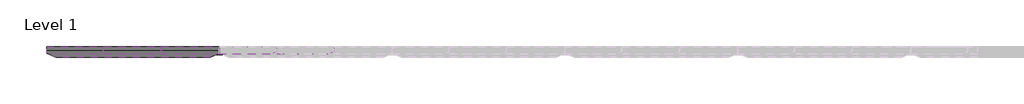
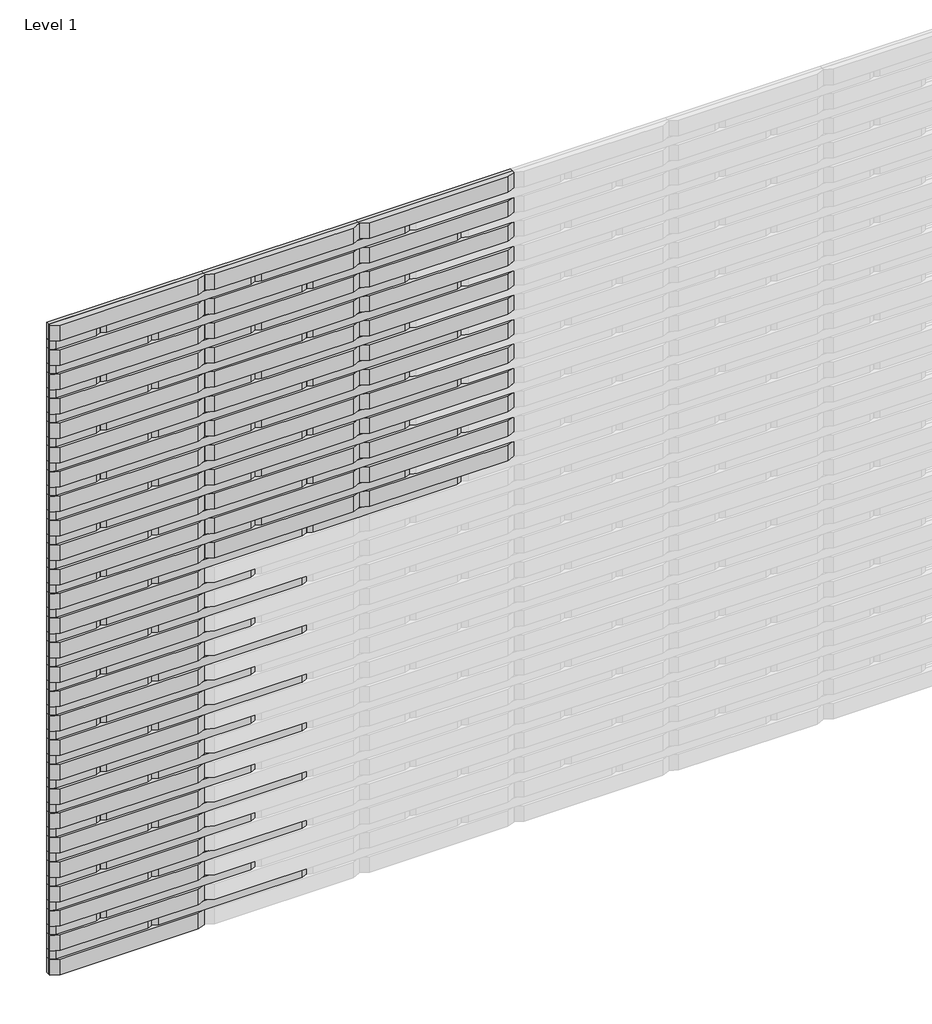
# One storey, part 1 of 3: 115 proxies.
"""IFC4 building model written with IfcOpenShell, lengths in millimetres."""

from ifc_helpers import new_model, si_unit, origin, place, context, project, spatial, transform, mapped, element, save
from components import specialty_equipment_40f1bc00, specialty_equipment_8bea2172, specialty_equipment_efb10dfa, specialty_equipment_349e55ab

model = new_model("IFC4")

# Units and contexts
model_context = context("Model", 3, world=origin())
ifc_project = project(units=[si_unit("LENGTHUNIT", "METRE", prefix="MILLI")], contexts=[model_context])

# Site, building, storey
site = spatial("IfcSite", under=ifc_project)
building = spatial("IfcBuilding", under=site)
storey = spatial("IfcBuildingStorey", under=building, Name="Level 1", Elevation=0.0)

# Proxies
placement = place(None, origin())
specialty_equipment_shape = specialty_equipment_40f1bc00(model_context)
element("IfcBuildingElementProxy", 1, Name="Spinneybeck_ARO Plank 8 : A - 2’-9” x 3 1/2” x 1 1/4”", ObjectType="Spinneybeck_ARO Plank 8 : A - 2’-9” x 3 1/2” x 1 1/4”", at=placement, inside=storey, context=model_context, shape_type="MappedRepresentation", body=[
    mapped(specialty_equipment_shape, transform((299.979612, 2593.3070483, 3755.55), x_axis=(1.0, 0.0, 0.0), y_axis=(0.0, 0.0, 1.0), z_axis=(0.0, -1.0, 0.0))),
])
element("IfcBuildingElementProxy", 2, Name="Spinneybeck_ARO Plank 8 : A - 2’-9” x 3 1/2” x 1 1/4”", ObjectType="Spinneybeck_ARO Plank 8 : A - 2’-9” x 3 1/2” x 1 1/4”", at=placement, inside=storey, context=model_context, shape_type="MappedRepresentation", body=[
    mapped(specialty_equipment_shape, transform((1138.179612, 2593.3070483, 3755.55), x_axis=(1.0, 0.0, 0.0), y_axis=(0.0, 0.0, 1.0), z_axis=(0.0, -1.0, 0.0))),
])
element("IfcBuildingElementProxy", 3, Name="Spinneybeck_ARO Plank 8 : A - 2’-9” x 3 1/2” x 1 1/4”", ObjectType="Spinneybeck_ARO Plank 8 : A - 2’-9” x 3 1/2” x 1 1/4”", at=placement, inside=storey, context=model_context, shape_type="MappedRepresentation", body=[
    mapped(specialty_equipment_shape, transform((1976.379612, 2593.3070483, 3755.55), x_axis=(1.0, 0.0, 0.0), y_axis=(0.0, 0.0, 1.0), z_axis=(0.0, -1.0, 0.0))),
])
element("IfcBuildingElementProxy", 4, Name="Spinneybeck_ARO Plank 8 : A - 2’-9” x 3 1/2” x 1 1/4”", ObjectType="Spinneybeck_ARO Plank 8 : A - 2’-9” x 3 1/2” x 1 1/4”", at=placement, inside=storey, context=model_context, shape_type="MappedRepresentation", body=[
    mapped(specialty_equipment_shape, transform((299.979612, 2593.3070483, 3615.85), x_axis=(1.0, 0.0, 0.0), y_axis=(0.0, 0.0, 1.0), z_axis=(0.0, -1.0, 0.0))),
])
element("IfcBuildingElementProxy", 5, Name="Spinneybeck_ARO Plank 8 : A - 2’-9” x 3 1/2” x 1 1/4”", ObjectType="Spinneybeck_ARO Plank 8 : A - 2’-9” x 3 1/2” x 1 1/4”", at=placement, inside=storey, context=model_context, shape_type="MappedRepresentation", body=[
    mapped(specialty_equipment_shape, transform((1138.179612, 2593.3070483, 3615.85), x_axis=(1.0, 0.0, 0.0), y_axis=(0.0, 0.0, 1.0), z_axis=(0.0, -1.0, 0.0))),
])
element("IfcBuildingElementProxy", 6, Name="Spinneybeck_ARO Plank 8 : A - 2’-9” x 3 1/2” x 1 1/4”", ObjectType="Spinneybeck_ARO Plank 8 : A - 2’-9” x 3 1/2” x 1 1/4”", at=placement, inside=storey, context=model_context, shape_type="MappedRepresentation", body=[
    mapped(specialty_equipment_shape, transform((1976.379612, 2593.3070483, 3615.85), x_axis=(1.0, 0.0, 0.0), y_axis=(0.0, 0.0, 1.0), z_axis=(0.0, -1.0, 0.0))),
])
element("IfcBuildingElementProxy", 7, Name="Spinneybeck_ARO Plank 8 : A - 2’-9” x 3 1/2” x 1 1/4”", ObjectType="Spinneybeck_ARO Plank 8 : A - 2’-9” x 3 1/2” x 1 1/4”", at=placement, inside=storey, context=model_context, shape_type="MappedRepresentation", body=[
    mapped(specialty_equipment_shape, transform((299.979612, 2593.3070483, 3476.15), x_axis=(1.0, 0.0, 0.0), y_axis=(0.0, 0.0, 1.0), z_axis=(0.0, -1.0, 0.0))),
])
element("IfcBuildingElementProxy", 8, Name="Spinneybeck_ARO Plank 8 : A - 2’-9” x 3 1/2” x 1 1/4”", ObjectType="Spinneybeck_ARO Plank 8 : A - 2’-9” x 3 1/2” x 1 1/4”", at=placement, inside=storey, context=model_context, shape_type="MappedRepresentation", body=[
    mapped(specialty_equipment_shape, transform((1138.179612, 2593.3070483, 3476.15), x_axis=(1.0, 0.0, 0.0), y_axis=(0.0, 0.0, 1.0), z_axis=(0.0, -1.0, 0.0))),
])
element("IfcBuildingElementProxy", 9, Name="Spinneybeck_ARO Plank 8 : A - 2’-9” x 3 1/2” x 1 1/4”", ObjectType="Spinneybeck_ARO Plank 8 : A - 2’-9” x 3 1/2” x 1 1/4”", at=placement, inside=storey, context=model_context, shape_type="MappedRepresentation", body=[
    mapped(specialty_equipment_shape, transform((1976.379612, 2593.3070483, 3476.15), x_axis=(1.0, 0.0, 0.0), y_axis=(0.0, 0.0, 1.0), z_axis=(0.0, -1.0, 0.0))),
])
element("IfcBuildingElementProxy", 10, Name="Spinneybeck_ARO Plank 8 : A - 2’-9” x 3 1/2” x 1 1/4”", ObjectType="Spinneybeck_ARO Plank 8 : A - 2’-9” x 3 1/2” x 1 1/4”", at=placement, inside=storey, context=model_context, shape_type="MappedRepresentation", body=[
    mapped(specialty_equipment_shape, transform((299.979612, 2593.3070483, 3336.45), x_axis=(1.0, 0.0, 0.0), y_axis=(0.0, 0.0, 1.0), z_axis=(0.0, -1.0, 0.0))),
])
element("IfcBuildingElementProxy", 11, Name="Spinneybeck_ARO Plank 8 : A - 2’-9” x 3 1/2” x 1 1/4”", ObjectType="Spinneybeck_ARO Plank 8 : A - 2’-9” x 3 1/2” x 1 1/4”", at=placement, inside=storey, context=model_context, shape_type="MappedRepresentation", body=[
    mapped(specialty_equipment_shape, transform((1138.179612, 2593.3070483, 3336.45), x_axis=(1.0, 0.0, 0.0), y_axis=(0.0, 0.0, 1.0), z_axis=(0.0, -1.0, 0.0))),
])
element("IfcBuildingElementProxy", 12, Name="Spinneybeck_ARO Plank 8 : A - 2’-9” x 3 1/2” x 1 1/4”", ObjectType="Spinneybeck_ARO Plank 8 : A - 2’-9” x 3 1/2” x 1 1/4”", at=placement, inside=storey, context=model_context, shape_type="MappedRepresentation", body=[
    mapped(specialty_equipment_shape, transform((1976.379612, 2593.3070483, 3336.45), x_axis=(1.0, 0.0, 0.0), y_axis=(0.0, 0.0, 1.0), z_axis=(0.0, -1.0, 0.0))),
])
element("IfcBuildingElementProxy", 13, Name="Spinneybeck_ARO Plank 8 : A - 2’-9” x 3 1/2” x 1 1/4”", ObjectType="Spinneybeck_ARO Plank 8 : A - 2’-9” x 3 1/2” x 1 1/4”", at=placement, inside=storey, context=model_context, shape_type="MappedRepresentation", body=[
    mapped(specialty_equipment_shape, transform((299.979612, 2593.3070483, 3196.75), x_axis=(1.0, 0.0, 0.0), y_axis=(0.0, 0.0, 1.0), z_axis=(0.0, -1.0, 0.0))),
])
element("IfcBuildingElementProxy", 14, Name="Spinneybeck_ARO Plank 8 : A - 2’-9” x 3 1/2” x 1 1/4”", ObjectType="Spinneybeck_ARO Plank 8 : A - 2’-9” x 3 1/2” x 1 1/4”", at=placement, inside=storey, context=model_context, shape_type="MappedRepresentation", body=[
    mapped(specialty_equipment_shape, transform((1138.179612, 2593.3070483, 3196.75), x_axis=(1.0, 0.0, 0.0), y_axis=(0.0, 0.0, 1.0), z_axis=(0.0, -1.0, 0.0))),
])
element("IfcBuildingElementProxy", 15, Name="Spinneybeck_ARO Plank 8 : A - 2’-9” x 3 1/2” x 1 1/4”", ObjectType="Spinneybeck_ARO Plank 8 : A - 2’-9” x 3 1/2” x 1 1/4”", at=placement, inside=storey, context=model_context, shape_type="MappedRepresentation", body=[
    mapped(specialty_equipment_shape, transform((1976.379612, 2593.3070483, 3196.75), x_axis=(1.0, 0.0, 0.0), y_axis=(0.0, 0.0, 1.0), z_axis=(0.0, -1.0, 0.0))),
])
element("IfcBuildingElementProxy", 16, Name="Spinneybeck_ARO Plank 8 : A - 2’-9” x 3 1/2” x 1 1/4”", ObjectType="Spinneybeck_ARO Plank 8 : A - 2’-9” x 3 1/2” x 1 1/4”", at=placement, inside=storey, context=model_context, shape_type="MappedRepresentation", body=[
    mapped(specialty_equipment_shape, transform((299.979612, 2593.3070483, 3057.05), x_axis=(1.0, 0.0, 0.0), y_axis=(0.0, 0.0, 1.0), z_axis=(0.0, -1.0, 0.0))),
])
element("IfcBuildingElementProxy", 17, Name="Spinneybeck_ARO Plank 8 : A - 2’-9” x 3 1/2” x 1 1/4”", ObjectType="Spinneybeck_ARO Plank 8 : A - 2’-9” x 3 1/2” x 1 1/4”", at=placement, inside=storey, context=model_context, shape_type="MappedRepresentation", body=[
    mapped(specialty_equipment_shape, transform((1138.179612, 2593.3070483, 3057.05), x_axis=(1.0, 0.0, 0.0), y_axis=(0.0, 0.0, 1.0), z_axis=(0.0, -1.0, 0.0))),
])
element("IfcBuildingElementProxy", 18, Name="Spinneybeck_ARO Plank 8 : A - 2’-9” x 3 1/2” x 1 1/4”", ObjectType="Spinneybeck_ARO Plank 8 : A - 2’-9” x 3 1/2” x 1 1/4”", at=placement, inside=storey, context=model_context, shape_type="MappedRepresentation", body=[
    mapped(specialty_equipment_shape, transform((1976.379612, 2593.3070483, 3057.05), x_axis=(1.0, 0.0, 0.0), y_axis=(0.0, 0.0, 1.0), z_axis=(0.0, -1.0, 0.0))),
])
element("IfcBuildingElementProxy", 19, Name="Spinneybeck_ARO Plank 8 : A - 2’-9” x 3 1/2” x 1 1/4”", ObjectType="Spinneybeck_ARO Plank 8 : A - 2’-9” x 3 1/2” x 1 1/4”", at=placement, inside=storey, context=model_context, shape_type="MappedRepresentation", body=[
    mapped(specialty_equipment_shape, transform((299.979612, 2593.3070483, 2917.35), x_axis=(1.0, 0.0, 0.0), y_axis=(0.0, 0.0, 1.0), z_axis=(0.0, -1.0, 0.0))),
])
element("IfcBuildingElementProxy", 20, Name="Spinneybeck_ARO Plank 8 : A - 2’-9” x 3 1/2” x 1 1/4”", ObjectType="Spinneybeck_ARO Plank 8 : A - 2’-9” x 3 1/2” x 1 1/4”", at=placement, inside=storey, context=model_context, shape_type="MappedRepresentation", body=[
    mapped(specialty_equipment_shape, transform((1138.179612, 2593.3070483, 2917.35), x_axis=(1.0, 0.0, 0.0), y_axis=(0.0, 0.0, 1.0), z_axis=(0.0, -1.0, 0.0))),
])
element("IfcBuildingElementProxy", 21, Name="Spinneybeck_ARO Plank 8 : A - 2’-9” x 3 1/2” x 1 1/4”", ObjectType="Spinneybeck_ARO Plank 8 : A - 2’-9” x 3 1/2” x 1 1/4”", at=placement, inside=storey, context=model_context, shape_type="MappedRepresentation", body=[
    mapped(specialty_equipment_shape, transform((1976.379612, 2593.3070483, 2917.35), x_axis=(1.0, 0.0, 0.0), y_axis=(0.0, 0.0, 1.0), z_axis=(0.0, -1.0, 0.0))),
])
element("IfcBuildingElementProxy", 22, Name="Spinneybeck_ARO Plank 8 : A - 2’-9” x 3 1/2” x 1 1/4”", ObjectType="Spinneybeck_ARO Plank 8 : A - 2’-9” x 3 1/2” x 1 1/4”", at=placement, inside=storey, context=model_context, shape_type="MappedRepresentation", body=[
    mapped(specialty_equipment_shape, transform((299.979612, 2593.3070483, 2777.65), x_axis=(1.0, 0.0, 0.0), y_axis=(0.0, 0.0, 1.0), z_axis=(0.0, -1.0, 0.0))),
])
element("IfcBuildingElementProxy", 23, Name="Spinneybeck_ARO Plank 8 : A - 2’-9” x 3 1/2” x 1 1/4”", ObjectType="Spinneybeck_ARO Plank 8 : A - 2’-9” x 3 1/2” x 1 1/4”", at=placement, inside=storey, context=model_context, shape_type="MappedRepresentation", body=[
    mapped(specialty_equipment_shape, transform((1138.179612, 2593.3070483, 2777.65), x_axis=(1.0, 0.0, 0.0), y_axis=(0.0, 0.0, 1.0), z_axis=(0.0, -1.0, 0.0))),
])
element("IfcBuildingElementProxy", 24, Name="Spinneybeck_ARO Plank 8 : A - 2’-9” x 3 1/2” x 1 1/4”", ObjectType="Spinneybeck_ARO Plank 8 : A - 2’-9” x 3 1/2” x 1 1/4”", at=placement, inside=storey, context=model_context, shape_type="MappedRepresentation", body=[
    mapped(specialty_equipment_shape, transform((1976.379612, 2593.3070483, 2777.65), x_axis=(1.0, 0.0, 0.0), y_axis=(0.0, 0.0, 1.0), z_axis=(0.0, -1.0, 0.0))),
])
element("IfcBuildingElementProxy", 25, Name="Spinneybeck_ARO Plank 8 : A - 2’-9” x 3 1/2” x 1 1/4”", ObjectType="Spinneybeck_ARO Plank 8 : A - 2’-9” x 3 1/2” x 1 1/4”", at=placement, inside=storey, context=model_context, shape_type="MappedRepresentation", body=[
    mapped(specialty_equipment_shape, transform((299.979612, 2593.3070483, 2637.95), x_axis=(1.0, 0.0, 0.0), y_axis=(0.0, 0.0, 1.0), z_axis=(0.0, -1.0, 0.0))),
])
element("IfcBuildingElementProxy", 26, Name="Spinneybeck_ARO Plank 8 : A - 2’-9” x 3 1/2” x 1 1/4”", ObjectType="Spinneybeck_ARO Plank 8 : A - 2’-9” x 3 1/2” x 1 1/4”", at=placement, inside=storey, context=model_context, shape_type="MappedRepresentation", body=[
    mapped(specialty_equipment_shape, transform((1138.179612, 2593.3070483, 2637.95), x_axis=(1.0, 0.0, 0.0), y_axis=(0.0, 0.0, 1.0), z_axis=(0.0, -1.0, 0.0))),
])
element("IfcBuildingElementProxy", 27, Name="Spinneybeck_ARO Plank 8 : A - 2’-9” x 3 1/2” x 1 1/4”", ObjectType="Spinneybeck_ARO Plank 8 : A - 2’-9” x 3 1/2” x 1 1/4”", at=placement, inside=storey, context=model_context, shape_type="MappedRepresentation", body=[
    mapped(specialty_equipment_shape, transform((1976.379612, 2593.3070483, 2637.95), x_axis=(1.0, 0.0, 0.0), y_axis=(0.0, 0.0, 1.0), z_axis=(0.0, -1.0, 0.0))),
])
element("IfcBuildingElementProxy", 28, Name="Spinneybeck_ARO Plank 8 : A - 2’-9” x 3 1/2” x 1 1/4”", ObjectType="Spinneybeck_ARO Plank 8 : A - 2’-9” x 3 1/2” x 1 1/4”", at=placement, inside=storey, context=model_context, shape_type="MappedRepresentation", body=[
    mapped(specialty_equipment_shape, transform((299.979612, 2593.3070483, 2498.25), x_axis=(1.0, 0.0, 0.0), y_axis=(0.0, 0.0, 1.0), z_axis=(0.0, -1.0, 0.0))),
])
element("IfcBuildingElementProxy", 29, Name="Spinneybeck_ARO Plank 8 : A - 2’-9” x 3 1/2” x 1 1/4”", ObjectType="Spinneybeck_ARO Plank 8 : A - 2’-9” x 3 1/2” x 1 1/4”", at=placement, inside=storey, context=model_context, shape_type="MappedRepresentation", body=[
    mapped(specialty_equipment_shape, transform((1138.179612, 2593.3070483, 2498.25), x_axis=(1.0, 0.0, 0.0), y_axis=(0.0, 0.0, 1.0), z_axis=(0.0, -1.0, 0.0))),
])
element("IfcBuildingElementProxy", 30, Name="Spinneybeck_ARO Plank 8 : A - 2’-9” x 3 1/2” x 1 1/4”", ObjectType="Spinneybeck_ARO Plank 8 : A - 2’-9” x 3 1/2” x 1 1/4”", at=placement, inside=storey, context=model_context, shape_type="MappedRepresentation", body=[
    mapped(specialty_equipment_shape, transform((1976.379612, 2593.3070483, 2498.25), x_axis=(1.0, 0.0, 0.0), y_axis=(0.0, 0.0, 1.0), z_axis=(0.0, -1.0, 0.0))),
])
element("IfcBuildingElementProxy", 31, Name="Spinneybeck_ARO Plank 8 : A - 2’-9” x 3 1/2” x 1 1/4”", ObjectType="Spinneybeck_ARO Plank 8 : A - 2’-9” x 3 1/2” x 1 1/4”", at=placement, inside=storey, context=model_context, shape_type="MappedRepresentation", body=[
    mapped(specialty_equipment_shape, transform((299.979612, 2593.3070483, 2358.55), x_axis=(1.0, 0.0, 0.0), y_axis=(0.0, 0.0, 1.0), z_axis=(0.0, -1.0, 0.0))),
])
element("IfcBuildingElementProxy", 32, Name="Spinneybeck_ARO Plank 8 : A - 2’-9” x 3 1/2” x 1 1/4”", ObjectType="Spinneybeck_ARO Plank 8 : A - 2’-9” x 3 1/2” x 1 1/4”", at=placement, inside=storey, context=model_context, shape_type="MappedRepresentation", body=[
    mapped(specialty_equipment_shape, transform((1138.179612, 2593.3070483, 2358.55), x_axis=(1.0, 0.0, 0.0), y_axis=(0.0, 0.0, 1.0), z_axis=(0.0, -1.0, 0.0))),
])
element("IfcBuildingElementProxy", 33, Name="Spinneybeck_ARO Plank 8 : A - 2’-9” x 3 1/2” x 1 1/4”", ObjectType="Spinneybeck_ARO Plank 8 : A - 2’-9” x 3 1/2” x 1 1/4”", at=placement, inside=storey, context=model_context, shape_type="MappedRepresentation", body=[
    mapped(specialty_equipment_shape, transform((1976.379612, 2593.3070483, 2358.55), x_axis=(1.0, 0.0, 0.0), y_axis=(0.0, 0.0, 1.0), z_axis=(0.0, -1.0, 0.0))),
])
element("IfcBuildingElementProxy", 34, Name="Spinneybeck_ARO Plank 8 : A - 2’-9” x 3 1/2” x 1 1/4”", ObjectType="Spinneybeck_ARO Plank 8 : A - 2’-9” x 3 1/2” x 1 1/4”", at=placement, inside=storey, context=model_context, shape_type="MappedRepresentation", body=[
    mapped(specialty_equipment_shape, transform((299.979612, 2593.3070483, 2218.85), x_axis=(1.0, 0.0, 0.0), y_axis=(0.0, 0.0, 1.0), z_axis=(0.0, -1.0, 0.0))),
])
element("IfcBuildingElementProxy", 35, Name="Spinneybeck_ARO Plank 8 : A - 2’-9” x 3 1/2” x 1 1/4”", ObjectType="Spinneybeck_ARO Plank 8 : A - 2’-9” x 3 1/2” x 1 1/4”", at=placement, inside=storey, context=model_context, shape_type="MappedRepresentation", body=[
    mapped(specialty_equipment_shape, transform((1138.179612, 2593.3070483, 2218.85), x_axis=(1.0, 0.0, 0.0), y_axis=(0.0, 0.0, 1.0), z_axis=(0.0, -1.0, 0.0))),
])
element("IfcBuildingElementProxy", 36, Name="Spinneybeck_ARO Plank 8 : A - 2’-9” x 3 1/2” x 1 1/4”", ObjectType="Spinneybeck_ARO Plank 8 : A - 2’-9” x 3 1/2” x 1 1/4”", at=placement, inside=storey, context=model_context, shape_type="MappedRepresentation", body=[
    mapped(specialty_equipment_shape, transform((1976.379612, 2593.3070483, 2218.85), x_axis=(1.0, 0.0, 0.0), y_axis=(0.0, 0.0, 1.0), z_axis=(0.0, -1.0, 0.0))),
])
element("IfcBuildingElementProxy", 37, Name="Spinneybeck_ARO Plank 8 : A - 2’-9” x 3 1/2” x 1 1/4”", ObjectType="Spinneybeck_ARO Plank 8 : A - 2’-9” x 3 1/2” x 1 1/4”", at=placement, inside=storey, context=model_context, shape_type="MappedRepresentation", body=[
    mapped(specialty_equipment_shape, transform((299.979612, 2593.3070483, 2079.15), x_axis=(1.0, 0.0, 0.0), y_axis=(0.0, 0.0, 1.0), z_axis=(0.0, -1.0, 0.0))),
])
element("IfcBuildingElementProxy", 38, Name="Spinneybeck_ARO Plank 8 : A - 2’-9” x 3 1/2” x 1 1/4”", ObjectType="Spinneybeck_ARO Plank 8 : A - 2’-9” x 3 1/2” x 1 1/4”", at=placement, inside=storey, context=model_context, shape_type="MappedRepresentation", body=[
    mapped(specialty_equipment_shape, transform((299.979612, 2593.3070483, 1939.45), x_axis=(1.0, 0.0, 0.0), y_axis=(0.0, 0.0, 1.0), z_axis=(0.0, -1.0, 0.0))),
])
element("IfcBuildingElementProxy", 39, Name="Spinneybeck_ARO Plank 8 : A - 2’-9” x 3 1/2” x 1 1/4”", ObjectType="Spinneybeck_ARO Plank 8 : A - 2’-9” x 3 1/2” x 1 1/4”", at=placement, inside=storey, context=model_context, shape_type="MappedRepresentation", body=[
    mapped(specialty_equipment_shape, transform((299.979612, 2593.3070483, 1799.75), x_axis=(1.0, 0.0, 0.0), y_axis=(0.0, 0.0, 1.0), z_axis=(0.0, -1.0, 0.0))),
])
element("IfcBuildingElementProxy", 40, Name="Spinneybeck_ARO Plank 8 : A - 2’-9” x 3 1/2” x 1 1/4”", ObjectType="Spinneybeck_ARO Plank 8 : A - 2’-9” x 3 1/2” x 1 1/4”", at=placement, inside=storey, context=model_context, shape_type="MappedRepresentation", body=[
    mapped(specialty_equipment_shape, transform((299.979612, 2593.3070483, 1660.05), x_axis=(1.0, 0.0, 0.0), y_axis=(0.0, 0.0, 1.0), z_axis=(0.0, -1.0, 0.0))),
])
element("IfcBuildingElementProxy", 41, Name="Spinneybeck_ARO Plank 8 : A - 2’-9” x 3 1/2” x 1 1/4”", ObjectType="Spinneybeck_ARO Plank 8 : A - 2’-9” x 3 1/2” x 1 1/4”", at=placement, inside=storey, context=model_context, shape_type="MappedRepresentation", body=[
    mapped(specialty_equipment_shape, transform((299.979612, 2593.3070483, 1520.35), x_axis=(1.0, 0.0, 0.0), y_axis=(0.0, 0.0, 1.0), z_axis=(0.0, -1.0, 0.0))),
])
element("IfcBuildingElementProxy", 42, Name="Spinneybeck_ARO Plank 8 : A - 2’-9” x 3 1/2” x 1 1/4”", ObjectType="Spinneybeck_ARO Plank 8 : A - 2’-9” x 3 1/2” x 1 1/4”", at=placement, inside=storey, context=model_context, shape_type="MappedRepresentation", body=[
    mapped(specialty_equipment_shape, transform((299.979612, 2593.3070483, 1380.65), x_axis=(1.0, 0.0, 0.0), y_axis=(0.0, 0.0, 1.0), z_axis=(0.0, -1.0, 0.0))),
])
element("IfcBuildingElementProxy", 43, Name="Spinneybeck_ARO Plank 8 : A - 2’-9” x 3 1/2” x 1 1/4”", ObjectType="Spinneybeck_ARO Plank 8 : A - 2’-9” x 3 1/2” x 1 1/4”", at=placement, inside=storey, context=model_context, shape_type="MappedRepresentation", body=[
    mapped(specialty_equipment_shape, transform((299.979612, 2593.3070483, 1240.95), x_axis=(1.0, 0.0, 0.0), y_axis=(0.0, 0.0, 1.0), z_axis=(0.0, -1.0, 0.0))),
])
element("IfcBuildingElementProxy", 44, Name="Spinneybeck_ARO Plank 8 : A - 2’-9” x 3 1/2” x 1 1/4”", ObjectType="Spinneybeck_ARO Plank 8 : A - 2’-9” x 3 1/2” x 1 1/4”", at=placement, inside=storey, context=model_context, shape_type="MappedRepresentation", body=[
    mapped(specialty_equipment_shape, transform((299.979612, 2593.3070483, 1101.25), x_axis=(1.0, 0.0, 0.0), y_axis=(0.0, 0.0, 1.0), z_axis=(0.0, -1.0, 0.0))),
])
element("IfcBuildingElementProxy", 45, Name="Spinneybeck_ARO Plank 8 : A - 2’-9” x 3 1/2” x 1 1/4”", ObjectType="Spinneybeck_ARO Plank 8 : A - 2’-9” x 3 1/2” x 1 1/4”", at=placement, inside=storey, context=model_context, shape_type="MappedRepresentation", body=[
    mapped(specialty_equipment_shape, transform((299.979612, 2593.3070483, 961.55), x_axis=(1.0, 0.0, 0.0), y_axis=(0.0, 0.0, 1.0), z_axis=(0.0, -1.0, 0.0))),
])
element("IfcBuildingElementProxy", 46, Name="Spinneybeck_ARO Plank 8 : A - 2’-9” x 3 1/2” x 1 1/4”", ObjectType="Spinneybeck_ARO Plank 8 : A - 2’-9” x 3 1/2” x 1 1/4”", at=placement, inside=storey, context=model_context, shape_type="MappedRepresentation", body=[
    mapped(specialty_equipment_shape, transform((299.979612, 2593.3070483, 821.85), x_axis=(1.0, 0.0, 0.0), y_axis=(0.0, 0.0, 1.0), z_axis=(0.0, -1.0, 0.0))),
])
element("IfcBuildingElementProxy", 47, Name="Spinneybeck_ARO Plank 8 : A - 2’-9” x 3 1/2” x 1 1/4”", ObjectType="Spinneybeck_ARO Plank 8 : A - 2’-9” x 3 1/2” x 1 1/4”", at=placement, inside=storey, context=model_context, shape_type="MappedRepresentation", body=[
    mapped(specialty_equipment_shape, transform((299.979612, 2593.3070483, 682.15), x_axis=(1.0, 0.0, 0.0), y_axis=(0.0, 0.0, 1.0), z_axis=(0.0, -1.0, 0.0))),
])
element("IfcBuildingElementProxy", 48, Name="Spinneybeck_ARO Plank 8 : A - 2’-9” x 3 1/2” x 1 1/4”", ObjectType="Spinneybeck_ARO Plank 8 : A - 2’-9” x 3 1/2” x 1 1/4”", at=placement, inside=storey, context=model_context, shape_type="MappedRepresentation", body=[
    mapped(specialty_equipment_shape, transform((299.979612, 2593.3070483, 542.45), x_axis=(1.0, 0.0, 0.0), y_axis=(0.0, 0.0, 1.0), z_axis=(0.0, -1.0, 0.0))),
])
element("IfcBuildingElementProxy", 49, Name="Spinneybeck_ARO Plank 8 : A - 2’-9” x 3 1/2” x 1 1/4”", ObjectType="Spinneybeck_ARO Plank 8 : A - 2’-9” x 3 1/2” x 1 1/4”", at=placement, inside=storey, context=model_context, shape_type="MappedRepresentation", body=[
    mapped(specialty_equipment_shape, transform((299.979612, 2593.3070483, 402.75), x_axis=(1.0, 0.0, 0.0), y_axis=(0.0, 0.0, 1.0), z_axis=(0.0, -1.0, 0.0))),
])
element("IfcBuildingElementProxy", 50, Name="Spinneybeck_ARO Plank 8 : A - 2’-9” x 3 1/2” x 1 1/4”", ObjectType="Spinneybeck_ARO Plank 8 : A - 2’-9” x 3 1/2” x 1 1/4”", at=placement, inside=storey, context=model_context, shape_type="MappedRepresentation", body=[
    mapped(specialty_equipment_shape, transform((299.979612, 2593.3070483, 263.05), x_axis=(1.0, 0.0, 0.0), y_axis=(0.0, 0.0, 1.0), z_axis=(0.0, -1.0, 0.0))),
])
element("IfcBuildingElementProxy", 51, Name="Spinneybeck_ARO Plank 8 : A - 2’-9” x 3 1/2” x 1 1/4”", ObjectType="Spinneybeck_ARO Plank 8 : A - 2’-9” x 3 1/2” x 1 1/4”", at=placement, inside=storey, context=model_context, shape_type="MappedRepresentation", body=[
    mapped(specialty_equipment_shape, transform((299.979612, 2593.3070483, 123.35), x_axis=(1.0, 0.0, 0.0), y_axis=(0.0, 0.0, 1.0), z_axis=(0.0, -1.0, 0.0))),
])
specialty_equipment_2_shape = specialty_equipment_8bea2172(model_context)
element("IfcBuildingElementProxy", 52, Name="Spinneybeck_ARO Plank 8 : B - 2’-9” x 2” x 3/4”", ObjectType="Spinneybeck_ARO Plank 8 : B - 2’-9” x 2” x 3/4”", at=placement, inside=storey, context=model_context, shape_type="MappedRepresentation", body=[
    mapped(specialty_equipment_2_shape, transform((575.636232, 2593.3070483, 3685.7), x_axis=(1.0, 0.0, 0.0), y_axis=(0.0, 0.0, 1.0), z_axis=(0.0, -1.0, 0.0))),
])
element("IfcBuildingElementProxy", 53, Name="Spinneybeck_ARO Plank 8 : B - 2’-9” x 2” x 3/4”", ObjectType="Spinneybeck_ARO Plank 8 : B - 2’-9” x 2” x 3/4”", at=placement, inside=storey, context=model_context, shape_type="MappedRepresentation", body=[
    mapped(specialty_equipment_2_shape, transform((1413.836232, 2593.3070483, 3685.7), x_axis=(1.0, 0.0, 0.0), y_axis=(0.0, 0.0, 1.0), z_axis=(0.0, -1.0, 0.0))),
])
element("IfcBuildingElementProxy", 54, Name="Spinneybeck_ARO Plank 8 : B - 2’-9” x 2” x 3/4”", ObjectType="Spinneybeck_ARO Plank 8 : B - 2’-9” x 2” x 3/4”", at=placement, inside=storey, context=model_context, shape_type="MappedRepresentation", body=[
    mapped(specialty_equipment_2_shape, transform((855.636232, 2593.3070483, 3546.0), x_axis=(1.0, 0.0, 0.0), y_axis=(0.0, 0.0, 1.0), z_axis=(0.0, -1.0, 0.0))),
])
element("IfcBuildingElementProxy", 55, Name="Spinneybeck_ARO Plank 8 : B - 2’-9” x 2” x 3/4”", ObjectType="Spinneybeck_ARO Plank 8 : B - 2’-9” x 2” x 3/4”", at=placement, inside=storey, context=model_context, shape_type="MappedRepresentation", body=[
    mapped(specialty_equipment_2_shape, transform((1693.836232, 2593.3070483, 3546.0), x_axis=(1.0, 0.0, 0.0), y_axis=(0.0, 0.0, 1.0), z_axis=(0.0, -1.0, 0.0))),
])
element("IfcBuildingElementProxy", 56, Name="Spinneybeck_ARO Plank 8 : B - 2’-9” x 2” x 3/4”", ObjectType="Spinneybeck_ARO Plank 8 : B - 2’-9” x 2” x 3/4”", at=placement, inside=storey, context=model_context, shape_type="MappedRepresentation", body=[
    mapped(specialty_equipment_2_shape, transform((575.636232, 2593.3070483, 3406.3), x_axis=(1.0, 0.0, 0.0), y_axis=(0.0, 0.0, 1.0), z_axis=(0.0, -1.0, 0.0))),
])
element("IfcBuildingElementProxy", 57, Name="Spinneybeck_ARO Plank 8 : B - 2’-9” x 2” x 3/4”", ObjectType="Spinneybeck_ARO Plank 8 : B - 2’-9” x 2” x 3/4”", at=placement, inside=storey, context=model_context, shape_type="MappedRepresentation", body=[
    mapped(specialty_equipment_2_shape, transform((1413.836232, 2593.3070483, 3406.3), x_axis=(1.0, 0.0, 0.0), y_axis=(0.0, 0.0, 1.0), z_axis=(0.0, -1.0, 0.0))),
])
element("IfcBuildingElementProxy", 58, Name="Spinneybeck_ARO Plank 8 : B - 2’-9” x 2” x 3/4”", ObjectType="Spinneybeck_ARO Plank 8 : B - 2’-9” x 2” x 3/4”", at=placement, inside=storey, context=model_context, shape_type="MappedRepresentation", body=[
    mapped(specialty_equipment_2_shape, transform((855.636232, 2593.3070483, 3266.6), x_axis=(1.0, 0.0, 0.0), y_axis=(0.0, 0.0, 1.0), z_axis=(0.0, -1.0, 0.0))),
])
element("IfcBuildingElementProxy", 59, Name="Spinneybeck_ARO Plank 8 : B - 2’-9” x 2” x 3/4”", ObjectType="Spinneybeck_ARO Plank 8 : B - 2’-9” x 2” x 3/4”", at=placement, inside=storey, context=model_context, shape_type="MappedRepresentation", body=[
    mapped(specialty_equipment_2_shape, transform((1693.836232, 2593.3070483, 3266.6), x_axis=(1.0, 0.0, 0.0), y_axis=(0.0, 0.0, 1.0), z_axis=(0.0, -1.0, 0.0))),
])
element("IfcBuildingElementProxy", 60, Name="Spinneybeck_ARO Plank 8 : B - 2’-9” x 2” x 3/4”", ObjectType="Spinneybeck_ARO Plank 8 : B - 2’-9” x 2” x 3/4”", at=placement, inside=storey, context=model_context, shape_type="MappedRepresentation", body=[
    mapped(specialty_equipment_2_shape, transform((575.636232, 2593.3070483, 3126.9), x_axis=(1.0, 0.0, 0.0), y_axis=(0.0, 0.0, 1.0), z_axis=(0.0, -1.0, 0.0))),
])
element("IfcBuildingElementProxy", 61, Name="Spinneybeck_ARO Plank 8 : B - 2’-9” x 2” x 3/4”", ObjectType="Spinneybeck_ARO Plank 8 : B - 2’-9” x 2” x 3/4”", at=placement, inside=storey, context=model_context, shape_type="MappedRepresentation", body=[
    mapped(specialty_equipment_2_shape, transform((1413.836232, 2593.3070483, 3126.9), x_axis=(1.0, 0.0, 0.0), y_axis=(0.0, 0.0, 1.0), z_axis=(0.0, -1.0, 0.0))),
])
element("IfcBuildingElementProxy", 62, Name="Spinneybeck_ARO Plank 8 : B - 2’-9” x 2” x 3/4”", ObjectType="Spinneybeck_ARO Plank 8 : B - 2’-9” x 2” x 3/4”", at=placement, inside=storey, context=model_context, shape_type="MappedRepresentation", body=[
    mapped(specialty_equipment_2_shape, transform((855.636232, 2593.3070483, 2987.2), x_axis=(1.0, 0.0, 0.0), y_axis=(0.0, 0.0, 1.0), z_axis=(0.0, -1.0, 0.0))),
])
element("IfcBuildingElementProxy", 63, Name="Spinneybeck_ARO Plank 8 : B - 2’-9” x 2” x 3/4”", ObjectType="Spinneybeck_ARO Plank 8 : B - 2’-9” x 2” x 3/4”", at=placement, inside=storey, context=model_context, shape_type="MappedRepresentation", body=[
    mapped(specialty_equipment_2_shape, transform((1693.836232, 2593.3070483, 2987.2), x_axis=(1.0, 0.0, 0.0), y_axis=(0.0, 0.0, 1.0), z_axis=(0.0, -1.0, 0.0))),
])
element("IfcBuildingElementProxy", 64, Name="Spinneybeck_ARO Plank 8 : B - 2’-9” x 2” x 3/4”", ObjectType="Spinneybeck_ARO Plank 8 : B - 2’-9” x 2” x 3/4”", at=placement, inside=storey, context=model_context, shape_type="MappedRepresentation", body=[
    mapped(specialty_equipment_2_shape, transform((575.636232, 2593.3070483, 2847.5), x_axis=(1.0, 0.0, 0.0), y_axis=(0.0, 0.0, 1.0), z_axis=(0.0, -1.0, 0.0))),
])
element("IfcBuildingElementProxy", 65, Name="Spinneybeck_ARO Plank 8 : B - 2’-9” x 2” x 3/4”", ObjectType="Spinneybeck_ARO Plank 8 : B - 2’-9” x 2” x 3/4”", at=placement, inside=storey, context=model_context, shape_type="MappedRepresentation", body=[
    mapped(specialty_equipment_2_shape, transform((1413.836232, 2593.3070483, 2847.5), x_axis=(1.0, 0.0, 0.0), y_axis=(0.0, 0.0, 1.0), z_axis=(0.0, -1.0, 0.0))),
])
element("IfcBuildingElementProxy", 66, Name="Spinneybeck_ARO Plank 8 : B - 2’-9” x 2” x 3/4”", ObjectType="Spinneybeck_ARO Plank 8 : B - 2’-9” x 2” x 3/4”", at=placement, inside=storey, context=model_context, shape_type="MappedRepresentation", body=[
    mapped(specialty_equipment_2_shape, transform((855.636232, 2593.3070483, 2707.8), x_axis=(1.0, 0.0, 0.0), y_axis=(0.0, 0.0, 1.0), z_axis=(0.0, -1.0, 0.0))),
])
element("IfcBuildingElementProxy", 67, Name="Spinneybeck_ARO Plank 8 : B - 2’-9” x 2” x 3/4”", ObjectType="Spinneybeck_ARO Plank 8 : B - 2’-9” x 2” x 3/4”", at=placement, inside=storey, context=model_context, shape_type="MappedRepresentation", body=[
    mapped(specialty_equipment_2_shape, transform((1693.836232, 2593.3070483, 2707.8), x_axis=(1.0, 0.0, 0.0), y_axis=(0.0, 0.0, 1.0), z_axis=(0.0, -1.0, 0.0))),
])
element("IfcBuildingElementProxy", 68, Name="Spinneybeck_ARO Plank 8 : B - 2’-9” x 2” x 3/4”", ObjectType="Spinneybeck_ARO Plank 8 : B - 2’-9” x 2” x 3/4”", at=placement, inside=storey, context=model_context, shape_type="MappedRepresentation", body=[
    mapped(specialty_equipment_2_shape, transform((575.636232, 2593.3070483, 2568.1), x_axis=(1.0, 0.0, 0.0), y_axis=(0.0, 0.0, 1.0), z_axis=(0.0, -1.0, 0.0))),
])
element("IfcBuildingElementProxy", 69, Name="Spinneybeck_ARO Plank 8 : B - 2’-9” x 2” x 3/4”", ObjectType="Spinneybeck_ARO Plank 8 : B - 2’-9” x 2” x 3/4”", at=placement, inside=storey, context=model_context, shape_type="MappedRepresentation", body=[
    mapped(specialty_equipment_2_shape, transform((1413.836232, 2593.3070483, 2568.1), x_axis=(1.0, 0.0, 0.0), y_axis=(0.0, 0.0, 1.0), z_axis=(0.0, -1.0, 0.0))),
])
element("IfcBuildingElementProxy", 70, Name="Spinneybeck_ARO Plank 8 : B - 2’-9” x 2” x 3/4”", ObjectType="Spinneybeck_ARO Plank 8 : B - 2’-9” x 2” x 3/4”", at=placement, inside=storey, context=model_context, shape_type="MappedRepresentation", body=[
    mapped(specialty_equipment_2_shape, transform((855.636232, 2593.3070483, 2428.4), x_axis=(1.0, 0.0, 0.0), y_axis=(0.0, 0.0, 1.0), z_axis=(0.0, -1.0, 0.0))),
])
element("IfcBuildingElementProxy", 71, Name="Spinneybeck_ARO Plank 8 : B - 2’-9” x 2” x 3/4”", ObjectType="Spinneybeck_ARO Plank 8 : B - 2’-9” x 2” x 3/4”", at=placement, inside=storey, context=model_context, shape_type="MappedRepresentation", body=[
    mapped(specialty_equipment_2_shape, transform((1693.836232, 2593.3070483, 2428.4), x_axis=(1.0, 0.0, 0.0), y_axis=(0.0, 0.0, 1.0), z_axis=(0.0, -1.0, 0.0))),
])
element("IfcBuildingElementProxy", 72, Name="Spinneybeck_ARO Plank 8 : B - 2’-9” x 2” x 3/4”", ObjectType="Spinneybeck_ARO Plank 8 : B - 2’-9” x 2” x 3/4”", at=placement, inside=storey, context=model_context, shape_type="MappedRepresentation", body=[
    mapped(specialty_equipment_2_shape, transform((575.636232, 2593.3070483, 2288.7), x_axis=(1.0, 0.0, 0.0), y_axis=(0.0, 0.0, 1.0), z_axis=(0.0, -1.0, 0.0))),
])
element("IfcBuildingElementProxy", 73, Name="Spinneybeck_ARO Plank 8 : B - 2’-9” x 2” x 3/4”", ObjectType="Spinneybeck_ARO Plank 8 : B - 2’-9” x 2” x 3/4”", at=placement, inside=storey, context=model_context, shape_type="MappedRepresentation", body=[
    mapped(specialty_equipment_2_shape, transform((1413.836232, 2593.3070483, 2288.7), x_axis=(1.0, 0.0, 0.0), y_axis=(0.0, 0.0, 1.0), z_axis=(0.0, -1.0, 0.0))),
])
element("IfcBuildingElementProxy", 74, Name="Spinneybeck_ARO Plank 8 : B - 2’-9” x 2” x 3/4”", ObjectType="Spinneybeck_ARO Plank 8 : B - 2’-9” x 2” x 3/4”", at=placement, inside=storey, context=model_context, shape_type="MappedRepresentation", body=[
    mapped(specialty_equipment_2_shape, transform((855.636232, 2593.3070483, 2149.0), x_axis=(1.0, 0.0, 0.0), y_axis=(0.0, 0.0, 1.0), z_axis=(0.0, -1.0, 0.0))),
])
element("IfcBuildingElementProxy", 75, Name="Spinneybeck_ARO Plank 8 : B - 2’-9” x 2” x 3/4”", ObjectType="Spinneybeck_ARO Plank 8 : B - 2’-9” x 2” x 3/4”", at=placement, inside=storey, context=model_context, shape_type="MappedRepresentation", body=[
    mapped(specialty_equipment_2_shape, transform((1693.836232, 2593.3070483, 2149.0), x_axis=(1.0, 0.0, 0.0), y_axis=(0.0, 0.0, 1.0), z_axis=(0.0, -1.0, 0.0))),
])
element("IfcBuildingElementProxy", 76, Name="Spinneybeck_ARO Plank 8 : B - 2’-9” x 2” x 3/4”", ObjectType="Spinneybeck_ARO Plank 8 : B - 2’-9” x 2” x 3/4”", at=placement, inside=storey, context=model_context, shape_type="MappedRepresentation", body=[
    mapped(specialty_equipment_2_shape, transform((575.636232, 2593.3070483, 2009.3), x_axis=(1.0, 0.0, 0.0), y_axis=(0.0, 0.0, 1.0), z_axis=(0.0, -1.0, 0.0))),
])
element("IfcBuildingElementProxy", 77, Name="Spinneybeck_ARO Plank 8 : B - 2’-9” x 2” x 3/4”", ObjectType="Spinneybeck_ARO Plank 8 : B - 2’-9” x 2” x 3/4”", at=placement, inside=storey, context=model_context, shape_type="MappedRepresentation", body=[
    mapped(specialty_equipment_2_shape, transform((855.636232, 2593.3070483, 1869.6), x_axis=(1.0, 0.0, 0.0), y_axis=(0.0, 0.0, 1.0), z_axis=(0.0, -1.0, 0.0))),
])
element("IfcBuildingElementProxy", 78, Name="Spinneybeck_ARO Plank 8 : B - 2’-9” x 2” x 3/4”", ObjectType="Spinneybeck_ARO Plank 8 : B - 2’-9” x 2” x 3/4”", at=placement, inside=storey, context=model_context, shape_type="MappedRepresentation", body=[
    mapped(specialty_equipment_2_shape, transform((575.636232, 2593.3070483, 1729.9), x_axis=(1.0, 0.0, 0.0), y_axis=(0.0, 0.0, 1.0), z_axis=(0.0, -1.0, 0.0))),
])
element("IfcBuildingElementProxy", 79, Name="Spinneybeck_ARO Plank 8 : B - 2’-9” x 2” x 3/4”", ObjectType="Spinneybeck_ARO Plank 8 : B - 2’-9” x 2” x 3/4”", at=placement, inside=storey, context=model_context, shape_type="MappedRepresentation", body=[
    mapped(specialty_equipment_2_shape, transform((855.636232, 2593.3070483, 1590.2), x_axis=(1.0, 0.0, 0.0), y_axis=(0.0, 0.0, 1.0), z_axis=(0.0, -1.0, 0.0))),
])
element("IfcBuildingElementProxy", 80, Name="Spinneybeck_ARO Plank 8 : B - 2’-9” x 2” x 3/4”", ObjectType="Spinneybeck_ARO Plank 8 : B - 2’-9” x 2” x 3/4”", at=placement, inside=storey, context=model_context, shape_type="MappedRepresentation", body=[
    mapped(specialty_equipment_2_shape, transform((575.636232, 2593.3070483, 1450.5), x_axis=(1.0, 0.0, 0.0), y_axis=(0.0, 0.0, 1.0), z_axis=(0.0, -1.0, 0.0))),
])
element("IfcBuildingElementProxy", 81, Name="Spinneybeck_ARO Plank 8 : B - 2’-9” x 2” x 3/4”", ObjectType="Spinneybeck_ARO Plank 8 : B - 2’-9” x 2” x 3/4”", at=placement, inside=storey, context=model_context, shape_type="MappedRepresentation", body=[
    mapped(specialty_equipment_2_shape, transform((855.636232, 2593.3070483, 1310.8), x_axis=(1.0, 0.0, 0.0), y_axis=(0.0, 0.0, 1.0), z_axis=(0.0, -1.0, 0.0))),
])
element("IfcBuildingElementProxy", 82, Name="Spinneybeck_ARO Plank 8 : B - 2’-9” x 2” x 3/4”", ObjectType="Spinneybeck_ARO Plank 8 : B - 2’-9” x 2” x 3/4”", at=placement, inside=storey, context=model_context, shape_type="MappedRepresentation", body=[
    mapped(specialty_equipment_2_shape, transform((575.636232, 2593.3070483, 1171.1), x_axis=(1.0, 0.0, 0.0), y_axis=(0.0, 0.0, 1.0), z_axis=(0.0, -1.0, 0.0))),
])
element("IfcBuildingElementProxy", 83, Name="Spinneybeck_ARO Plank 8 : B - 2’-9” x 2” x 3/4”", ObjectType="Spinneybeck_ARO Plank 8 : B - 2’-9” x 2” x 3/4”", at=placement, inside=storey, context=model_context, shape_type="MappedRepresentation", body=[
    mapped(specialty_equipment_2_shape, transform((855.636232, 2593.3070483, 1031.4), x_axis=(1.0, 0.0, 0.0), y_axis=(0.0, 0.0, 1.0), z_axis=(0.0, -1.0, 0.0))),
])
element("IfcBuildingElementProxy", 84, Name="Spinneybeck_ARO Plank 8 : B - 2’-9” x 2” x 3/4”", ObjectType="Spinneybeck_ARO Plank 8 : B - 2’-9” x 2” x 3/4”", at=placement, inside=storey, context=model_context, shape_type="MappedRepresentation", body=[
    mapped(specialty_equipment_2_shape, transform((575.636232, 2593.3070483, 891.7), x_axis=(1.0, 0.0, 0.0), y_axis=(0.0, 0.0, 1.0), z_axis=(0.0, -1.0, 0.0))),
])
element("IfcBuildingElementProxy", 85, Name="Spinneybeck_ARO Plank 8 : B - 2’-9” x 2” x 3/4”", ObjectType="Spinneybeck_ARO Plank 8 : B - 2’-9” x 2” x 3/4”", at=placement, inside=storey, context=model_context, shape_type="MappedRepresentation", body=[
    mapped(specialty_equipment_2_shape, transform((855.636232, 2593.3070483, 752.0), x_axis=(1.0, 0.0, 0.0), y_axis=(0.0, 0.0, 1.0), z_axis=(0.0, -1.0, 0.0))),
])
element("IfcBuildingElementProxy", 86, Name="Spinneybeck_ARO Plank 8 : B - 2’-9” x 2” x 3/4”", ObjectType="Spinneybeck_ARO Plank 8 : B - 2’-9” x 2” x 3/4”", at=placement, inside=storey, context=model_context, shape_type="MappedRepresentation", body=[
    mapped(specialty_equipment_2_shape, transform((575.636232, 2593.3070483, 612.3), x_axis=(1.0, 0.0, 0.0), y_axis=(0.0, 0.0, 1.0), z_axis=(0.0, -1.0, 0.0))),
])
element("IfcBuildingElementProxy", 87, Name="Spinneybeck_ARO Plank 8 : B - 2’-9” x 2” x 3/4”", ObjectType="Spinneybeck_ARO Plank 8 : B - 2’-9” x 2” x 3/4”", at=placement, inside=storey, context=model_context, shape_type="MappedRepresentation", body=[
    mapped(specialty_equipment_2_shape, transform((855.636232, 2593.3070483, 472.6), x_axis=(1.0, 0.0, 0.0), y_axis=(0.0, 0.0, 1.0), z_axis=(0.0, -1.0, 0.0))),
])
element("IfcBuildingElementProxy", 88, Name="Spinneybeck_ARO Plank 8 : B - 2’-9” x 2” x 3/4”", ObjectType="Spinneybeck_ARO Plank 8 : B - 2’-9” x 2” x 3/4”", at=placement, inside=storey, context=model_context, shape_type="MappedRepresentation", body=[
    mapped(specialty_equipment_2_shape, transform((575.636232, 2593.3070483, 332.9), x_axis=(1.0, 0.0, 0.0), y_axis=(0.0, 0.0, 1.0), z_axis=(0.0, -1.0, 0.0))),
])
element("IfcBuildingElementProxy", 89, Name="Spinneybeck_ARO Plank 8 : B - 2’-9” x 2” x 3/4”", ObjectType="Spinneybeck_ARO Plank 8 : B - 2’-9” x 2” x 3/4”", at=placement, inside=storey, context=model_context, shape_type="MappedRepresentation", body=[
    mapped(specialty_equipment_2_shape, transform((855.636232, 2593.3070483, 193.2), x_axis=(1.0, 0.0, 0.0), y_axis=(0.0, 0.0, 1.0), z_axis=(0.0, -1.0, 0.0))),
])
specialty_equipment_3_shape = specialty_equipment_efb10dfa(model_context)
element("IfcBuildingElementProxy", 90, Name="Spinneybeck_ARO Plank 8 : B - 2’-9” x 2” x 3/4”", ObjectType="Spinneybeck_ARO Plank 8 : B - 2’-9” x 2” x 3/4”", at=placement, inside=storey, context=model_context, shape_type="MappedRepresentation", body=[
    mapped(specialty_equipment_3_shape, transform((18.707922, 2593.3070483, 3685.7), x_axis=(1.0, 0.0, 0.0), y_axis=(0.0, 0.0, 1.0), z_axis=(0.0, -1.0, 0.0))),
])
element("IfcBuildingElementProxy", 91, Name="Spinneybeck_ARO Plank 8 : B - 2’-9” x 2” x 3/4”", ObjectType="Spinneybeck_ARO Plank 8 : B - 2’-9” x 2” x 3/4”", at=placement, inside=storey, context=model_context, shape_type="MappedRepresentation", body=[
    mapped(specialty_equipment_3_shape, transform((18.707922, 2593.3070483, 3406.3), x_axis=(1.0, 0.0, 0.0), y_axis=(0.0, 0.0, 1.0), z_axis=(0.0, -1.0, 0.0))),
])
element("IfcBuildingElementProxy", 92, Name="Spinneybeck_ARO Plank 8 : B - 2’-9” x 2” x 3/4”", ObjectType="Spinneybeck_ARO Plank 8 : B - 2’-9” x 2” x 3/4”", at=placement, inside=storey, context=model_context, shape_type="MappedRepresentation", body=[
    mapped(specialty_equipment_3_shape, transform((18.707922, 2593.3070483, 3126.9), x_axis=(1.0, 0.0, 0.0), y_axis=(0.0, 0.0, 1.0), z_axis=(0.0, -1.0, 0.0))),
])
element("IfcBuildingElementProxy", 93, Name="Spinneybeck_ARO Plank 8 : B - 2’-9” x 2” x 3/4”", ObjectType="Spinneybeck_ARO Plank 8 : B - 2’-9” x 2” x 3/4”", at=placement, inside=storey, context=model_context, shape_type="MappedRepresentation", body=[
    mapped(specialty_equipment_3_shape, transform((18.707922, 2593.3070483, 2847.5), x_axis=(1.0, 0.0, 0.0), y_axis=(0.0, 0.0, 1.0), z_axis=(0.0, -1.0, 0.0))),
])
element("IfcBuildingElementProxy", 94, Name="Spinneybeck_ARO Plank 8 : B - 2’-9” x 2” x 3/4”", ObjectType="Spinneybeck_ARO Plank 8 : B - 2’-9” x 2” x 3/4”", at=placement, inside=storey, context=model_context, shape_type="MappedRepresentation", body=[
    mapped(specialty_equipment_3_shape, transform((18.707922, 2593.3070483, 2568.1), x_axis=(1.0, 0.0, 0.0), y_axis=(0.0, 0.0, 1.0), z_axis=(0.0, -1.0, 0.0))),
])
element("IfcBuildingElementProxy", 95, Name="Spinneybeck_ARO Plank 8 : B - 2’-9” x 2” x 3/4”", ObjectType="Spinneybeck_ARO Plank 8 : B - 2’-9” x 2” x 3/4”", at=placement, inside=storey, context=model_context, shape_type="MappedRepresentation", body=[
    mapped(specialty_equipment_3_shape, transform((18.707922, 2593.3070483, 2288.7), x_axis=(1.0, 0.0, 0.0), y_axis=(0.0, 0.0, 1.0), z_axis=(0.0, -1.0, 0.0))),
])
element("IfcBuildingElementProxy", 96, Name="Spinneybeck_ARO Plank 8 : B - 2’-9” x 2” x 3/4”", ObjectType="Spinneybeck_ARO Plank 8 : B - 2’-9” x 2” x 3/4”", at=placement, inside=storey, context=model_context, shape_type="MappedRepresentation", body=[
    mapped(specialty_equipment_3_shape, transform((18.707922, 2593.3070483, 2009.3), x_axis=(1.0, 0.0, 0.0), y_axis=(0.0, 0.0, 1.0), z_axis=(0.0, -1.0, 0.0))),
])
element("IfcBuildingElementProxy", 97, Name="Spinneybeck_ARO Plank 8 : B - 2’-9” x 2” x 3/4”", ObjectType="Spinneybeck_ARO Plank 8 : B - 2’-9” x 2” x 3/4”", at=placement, inside=storey, context=model_context, shape_type="MappedRepresentation", body=[
    mapped(specialty_equipment_3_shape, transform((18.707922, 2593.3070483, 1729.9), x_axis=(1.0, 0.0, 0.0), y_axis=(0.0, 0.0, 1.0), z_axis=(0.0, -1.0, 0.0))),
])
element("IfcBuildingElementProxy", 98, Name="Spinneybeck_ARO Plank 8 : B - 2’-9” x 2” x 3/4”", ObjectType="Spinneybeck_ARO Plank 8 : B - 2’-9” x 2” x 3/4”", at=placement, inside=storey, context=model_context, shape_type="MappedRepresentation", body=[
    mapped(specialty_equipment_3_shape, transform((18.707922, 2593.3070483, 1450.5), x_axis=(1.0, 0.0, 0.0), y_axis=(0.0, 0.0, 1.0), z_axis=(0.0, -1.0, 0.0))),
])
element("IfcBuildingElementProxy", 99, Name="Spinneybeck_ARO Plank 8 : B - 2’-9” x 2” x 3/4”", ObjectType="Spinneybeck_ARO Plank 8 : B - 2’-9” x 2” x 3/4”", at=placement, inside=storey, context=model_context, shape_type="MappedRepresentation", body=[
    mapped(specialty_equipment_3_shape, transform((18.707922, 2593.3070483, 1171.1), x_axis=(1.0, 0.0, 0.0), y_axis=(0.0, 0.0, 1.0), z_axis=(0.0, -1.0, 0.0))),
])
element("IfcBuildingElementProxy", 100, Name="Spinneybeck_ARO Plank 8 : B - 2’-9” x 2” x 3/4”", ObjectType="Spinneybeck_ARO Plank 8 : B - 2’-9” x 2” x 3/4”", at=placement, inside=storey, context=model_context, shape_type="MappedRepresentation", body=[
    mapped(specialty_equipment_3_shape, transform((18.707922, 2593.3070483, 891.7), x_axis=(1.0, 0.0, 0.0), y_axis=(0.0, 0.0, 1.0), z_axis=(0.0, -1.0, 0.0))),
])
element("IfcBuildingElementProxy", 101, Name="Spinneybeck_ARO Plank 8 : B - 2’-9” x 2” x 3/4”", ObjectType="Spinneybeck_ARO Plank 8 : B - 2’-9” x 2” x 3/4”", at=placement, inside=storey, context=model_context, shape_type="MappedRepresentation", body=[
    mapped(specialty_equipment_3_shape, transform((18.707922, 2593.3070483, 612.3), x_axis=(1.0, 0.0, 0.0), y_axis=(0.0, 0.0, 1.0), z_axis=(0.0, -1.0, 0.0))),
])
element("IfcBuildingElementProxy", 102, Name="Spinneybeck_ARO Plank 8 : B - 2’-9” x 2” x 3/4”", ObjectType="Spinneybeck_ARO Plank 8 : B - 2’-9” x 2” x 3/4”", at=placement, inside=storey, context=model_context, shape_type="MappedRepresentation", body=[
    mapped(specialty_equipment_3_shape, transform((18.707922, 2593.3070483, 332.9), x_axis=(1.0, 0.0, 0.0), y_axis=(0.0, 0.0, 1.0), z_axis=(0.0, -1.0, 0.0))),
])
specialty_equipment_4_shape = specialty_equipment_349e55ab(model_context)
element("IfcBuildingElementProxy", 103, Name="Spinneybeck_ARO Plank 8 : B - 2’-9” x 2” x 3/4”", ObjectType="Spinneybeck_ARO Plank 8 : B - 2’-9” x 2” x 3/4”", at=placement, inside=storey, context=model_context, shape_type="MappedRepresentation", body=[
    mapped(specialty_equipment_4_shape, transform((158.707922, 2593.3070483, 3546.0), x_axis=(1.0, 0.0, 0.0), y_axis=(0.0, 0.0, 1.0), z_axis=(0.0, -1.0, 0.0))),
])
element("IfcBuildingElementProxy", 104, Name="Spinneybeck_ARO Plank 8 : B - 2’-9” x 2” x 3/4”", ObjectType="Spinneybeck_ARO Plank 8 : B - 2’-9” x 2” x 3/4”", at=placement, inside=storey, context=model_context, shape_type="MappedRepresentation", body=[
    mapped(specialty_equipment_4_shape, transform((158.707922, 2593.3070483, 3266.6), x_axis=(1.0, 0.0, 0.0), y_axis=(0.0, 0.0, 1.0), z_axis=(0.0, -1.0, 0.0))),
])
element("IfcBuildingElementProxy", 105, Name="Spinneybeck_ARO Plank 8 : B - 2’-9” x 2” x 3/4”", ObjectType="Spinneybeck_ARO Plank 8 : B - 2’-9” x 2” x 3/4”", at=placement, inside=storey, context=model_context, shape_type="MappedRepresentation", body=[
    mapped(specialty_equipment_4_shape, transform((158.707922, 2593.3070483, 2987.2), x_axis=(1.0, 0.0, 0.0), y_axis=(0.0, 0.0, 1.0), z_axis=(0.0, -1.0, 0.0))),
])
element("IfcBuildingElementProxy", 106, Name="Spinneybeck_ARO Plank 8 : B - 2’-9” x 2” x 3/4”", ObjectType="Spinneybeck_ARO Plank 8 : B - 2’-9” x 2” x 3/4”", at=placement, inside=storey, context=model_context, shape_type="MappedRepresentation", body=[
    mapped(specialty_equipment_4_shape, transform((158.707922, 2593.3070483, 2707.8), x_axis=(1.0, 0.0, 0.0), y_axis=(0.0, 0.0, 1.0), z_axis=(0.0, -1.0, 0.0))),
])
element("IfcBuildingElementProxy", 107, Name="Spinneybeck_ARO Plank 8 : B - 2’-9” x 2” x 3/4”", ObjectType="Spinneybeck_ARO Plank 8 : B - 2’-9” x 2” x 3/4”", at=placement, inside=storey, context=model_context, shape_type="MappedRepresentation", body=[
    mapped(specialty_equipment_4_shape, transform((158.707922, 2593.3070483, 2428.4), x_axis=(1.0, 0.0, 0.0), y_axis=(0.0, 0.0, 1.0), z_axis=(0.0, -1.0, 0.0))),
])
element("IfcBuildingElementProxy", 108, Name="Spinneybeck_ARO Plank 8 : B - 2’-9” x 2” x 3/4”", ObjectType="Spinneybeck_ARO Plank 8 : B - 2’-9” x 2” x 3/4”", at=placement, inside=storey, context=model_context, shape_type="MappedRepresentation", body=[
    mapped(specialty_equipment_4_shape, transform((158.707922, 2593.3070483, 2149.0), x_axis=(1.0, 0.0, 0.0), y_axis=(0.0, 0.0, 1.0), z_axis=(0.0, -1.0, 0.0))),
])
element("IfcBuildingElementProxy", 109, Name="Spinneybeck_ARO Plank 8 : B - 2’-9” x 2” x 3/4”", ObjectType="Spinneybeck_ARO Plank 8 : B - 2’-9” x 2” x 3/4”", at=placement, inside=storey, context=model_context, shape_type="MappedRepresentation", body=[
    mapped(specialty_equipment_4_shape, transform((158.707922, 2593.3070483, 1869.6), x_axis=(1.0, 0.0, 0.0), y_axis=(0.0, 0.0, 1.0), z_axis=(0.0, -1.0, 0.0))),
])
element("IfcBuildingElementProxy", 110, Name="Spinneybeck_ARO Plank 8 : B - 2’-9” x 2” x 3/4”", ObjectType="Spinneybeck_ARO Plank 8 : B - 2’-9” x 2” x 3/4”", at=placement, inside=storey, context=model_context, shape_type="MappedRepresentation", body=[
    mapped(specialty_equipment_4_shape, transform((158.707922, 2593.3070483, 1590.2), x_axis=(1.0, 0.0, 0.0), y_axis=(0.0, 0.0, 1.0), z_axis=(0.0, -1.0, 0.0))),
])
element("IfcBuildingElementProxy", 111, Name="Spinneybeck_ARO Plank 8 : B - 2’-9” x 2” x 3/4”", ObjectType="Spinneybeck_ARO Plank 8 : B - 2’-9” x 2” x 3/4”", at=placement, inside=storey, context=model_context, shape_type="MappedRepresentation", body=[
    mapped(specialty_equipment_4_shape, transform((158.707922, 2593.3070483, 1310.8), x_axis=(1.0, 0.0, 0.0), y_axis=(0.0, 0.0, 1.0), z_axis=(0.0, -1.0, 0.0))),
])
element("IfcBuildingElementProxy", 112, Name="Spinneybeck_ARO Plank 8 : B - 2’-9” x 2” x 3/4”", ObjectType="Spinneybeck_ARO Plank 8 : B - 2’-9” x 2” x 3/4”", at=placement, inside=storey, context=model_context, shape_type="MappedRepresentation", body=[
    mapped(specialty_equipment_4_shape, transform((158.707922, 2593.3070483, 1031.4), x_axis=(1.0, 0.0, 0.0), y_axis=(0.0, 0.0, 1.0), z_axis=(0.0, -1.0, 0.0))),
])
element("IfcBuildingElementProxy", 113, Name="Spinneybeck_ARO Plank 8 : B - 2’-9” x 2” x 3/4”", ObjectType="Spinneybeck_ARO Plank 8 : B - 2’-9” x 2” x 3/4”", at=placement, inside=storey, context=model_context, shape_type="MappedRepresentation", body=[
    mapped(specialty_equipment_4_shape, transform((158.707922, 2593.3070483, 752.0), x_axis=(1.0, 0.0, 0.0), y_axis=(0.0, 0.0, 1.0), z_axis=(0.0, -1.0, 0.0))),
])
element("IfcBuildingElementProxy", 114, Name="Spinneybeck_ARO Plank 8 : B - 2’-9” x 2” x 3/4”", ObjectType="Spinneybeck_ARO Plank 8 : B - 2’-9” x 2” x 3/4”", at=placement, inside=storey, context=model_context, shape_type="MappedRepresentation", body=[
    mapped(specialty_equipment_4_shape, transform((158.707922, 2593.3070483, 472.6), x_axis=(1.0, 0.0, 0.0), y_axis=(0.0, 0.0, 1.0), z_axis=(0.0, -1.0, 0.0))),
])
element("IfcBuildingElementProxy", 115, Name="Spinneybeck_ARO Plank 8 : B - 2’-9” x 2” x 3/4”", ObjectType="Spinneybeck_ARO Plank 8 : B - 2’-9” x 2” x 3/4”", at=placement, inside=storey, context=model_context, shape_type="MappedRepresentation", body=[
    mapped(specialty_equipment_4_shape, transform((158.707922, 2593.3070483, 193.2), x_axis=(1.0, 0.0, 0.0), y_axis=(0.0, 0.0, 1.0), z_axis=(0.0, -1.0, 0.0))),
])

save(model, "model.ifc")
